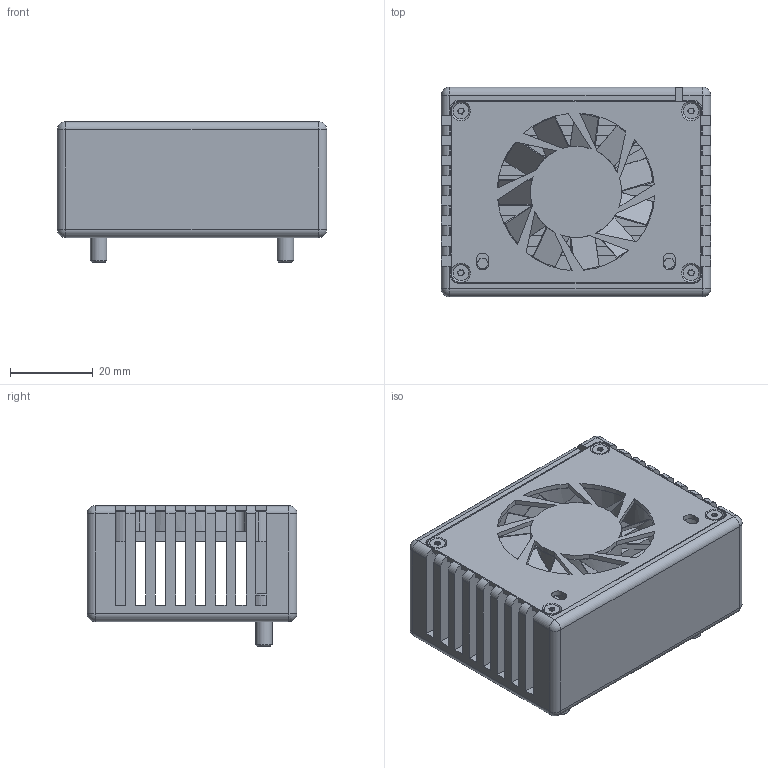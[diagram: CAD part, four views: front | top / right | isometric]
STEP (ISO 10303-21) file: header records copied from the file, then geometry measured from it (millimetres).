
FILE_DESCRIPTION(/* description */ (''),/* implementation_level */ '2;1');
FILE_NAME(/* name */ 'C:\Optronis\Inv\1200 Cyclone\1200-MG-16-A.stp',/* time_stamp */ '2022-02-07T15:24:03+01:00',/* author */ ('aba'),/* organization */ (''),/* preprocessor_version */ 'ST-DEVELOPER v18.1',/* originating_system */ 'Autodesk Inventor 2022',/* authorisation */ '');
FILE_SCHEMA (('CONFIG_CONTROL_DESIGN'));
Length unit declared in the file: millimetre
Products named in the file (9): 1200-MG-16-A; 1200-MD-50BA-A; 1200-MD-14BA-B; Confan Lüfter 40x40x7,2; DIN 6798 - J 2.7; Hexalobular socket pan head screw ISO 14583 - M2.5 x 8 - 4.8; Hexalobular socket countersunk flat head screw ISO 14581 - M2x4-4.8; 125 M4 PA Essentra; DIN 7984 - M4 x 10
Assembly tree (19 placements, depth 2):
  1200-MG-16-A
    1200-MD-50BA-A
    1200-MD-14BA-B
    Confan Lüfter 40x40x7,2
    DIN 6798 - J 2.7  x4
    Hexalobular socket pan head screw ISO 14583 - M2.5 x 8 - 4.8  x4
    Hexalobular socket countersunk flat head screw ISO 14581 - M2x4-4.8  x4
    125 M4 PA Essentra  x2
    DIN 7984 - M4 x 10  x2
Bounding box: 65 x 50.6 x 34 mm (x, y, z)
Volume: 53924.6 mm3; surface area: 44010 mm2
Topology: 19 solids, 19 shells, 958 faces, 2601 edges, 1719 vertices
Faces by surface type: plane 530, cylinder 357, bspline 27, cone 24, torus 12, sphere 8
Full cylindrical faces by diameter (mm): 1.567 x4, 2 x4, 2.013 x4, 2.5 x4, 3.4 x4, 3.8 x4, 4 x2, 4.3 x4, 5 x4, 5.5 x4, 5.8 x4, 7 x2, 9 x2, 9.5 x2, 22 x1, 38.5 x1
Entity records: 19734 total; most frequent: CARTESIAN_POINT 3685, DIRECTION 3271, ORIENTED_EDGE 3264, EDGE_CURVE 1632, LINE 1105, VECTOR 1105, AXIS2_PLACEMENT_3D 1083, VERTEX_POINT 1081
